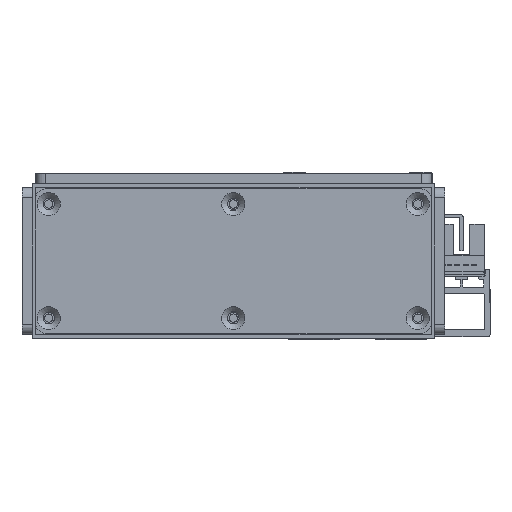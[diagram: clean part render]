
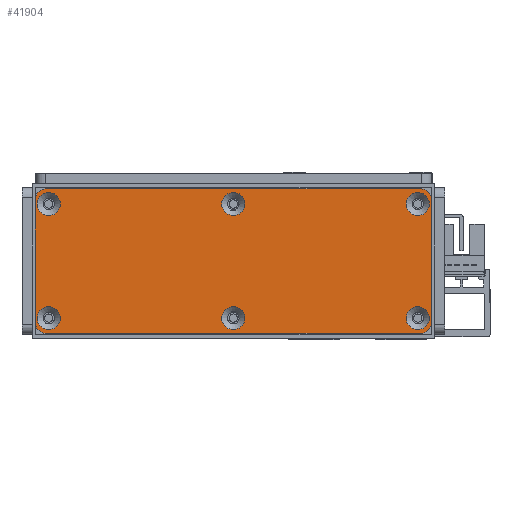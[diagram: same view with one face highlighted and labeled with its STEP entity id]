
A CAD part, front view. The second image highlights one B-rep face of the part: STEP entity #41904.
In plain terms, the highlighted planar face has unit normal (0, -1, 0) as drawn and (0, 0, 1) by its records, which use the part's own axes.
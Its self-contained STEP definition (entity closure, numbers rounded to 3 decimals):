
#779=FACE_BOUND('',#7645,.T.);
#780=FACE_BOUND('',#7646,.T.);
#781=FACE_BOUND('',#7647,.T.);
#782=FACE_BOUND('',#7648,.T.);
#783=FACE_BOUND('',#7649,.T.);
#784=FACE_BOUND('',#7650,.T.);
#2541=PLANE('',#45408);
#5114=FACE_OUTER_BOUND('',#7644,.T.);
#7644=EDGE_LOOP('',(#39059,#39060,#39061,#39062,#39063,#39064,#39065,#39066));
#7645=EDGE_LOOP('',(#39067));
#7646=EDGE_LOOP('',(#39068));
#7647=EDGE_LOOP('',(#39069));
#7648=EDGE_LOOP('',(#39070));
#7649=EDGE_LOOP('',(#39071));
#7650=EDGE_LOOP('',(#39072));
#12227=LINE('',#69977,#16887);
#12231=LINE('',#69989,#16891);
#12235=LINE('',#70001,#16895);
#12239=LINE('',#70011,#16899);
#16887=VECTOR('',#56042,10.);
#16891=VECTOR('',#56054,10.);
#16895=VECTOR('',#56066,10.);
#16899=VECTOR('',#56078,10.);
#18063=CIRCLE('',#45362,3.45);
#18066=CIRCLE('',#45367,3.45);
#18069=CIRCLE('',#45372,3.45);
#18072=CIRCLE('',#45377,3.45);
#18075=CIRCLE('',#45382,3.45);
#18078=CIRCLE('',#45387,3.45);
#18082=CIRCLE('',#45393,3.);
#18084=CIRCLE('',#45397,3.);
#18086=CIRCLE('',#45401,3.);
#18088=CIRCLE('',#45405,3.);
#21839=VERTEX_POINT('',#69905);
#21842=VERTEX_POINT('',#69915);
#21845=VERTEX_POINT('',#69925);
#21848=VERTEX_POINT('',#69935);
#21851=VERTEX_POINT('',#69945);
#21854=VERTEX_POINT('',#69955);
#21859=VERTEX_POINT('',#69968);
#21860=VERTEX_POINT('',#69970);
#21862=VERTEX_POINT('',#69976);
#21864=VERTEX_POINT('',#69982);
#21866=VERTEX_POINT('',#69988);
#21868=VERTEX_POINT('',#69994);
#21870=VERTEX_POINT('',#70000);
#21872=VERTEX_POINT('',#70006);
#27588=EDGE_CURVE('',#21839,#21839,#18063,.T.);
#27593=EDGE_CURVE('',#21842,#21842,#18066,.T.);
#27598=EDGE_CURVE('',#21845,#21845,#18069,.T.);
#27603=EDGE_CURVE('',#21848,#21848,#18072,.T.);
#27608=EDGE_CURVE('',#21851,#21851,#18075,.T.);
#27613=EDGE_CURVE('',#21854,#21854,#18078,.T.);
#27620=EDGE_CURVE('',#21860,#21859,#18082,.T.);
#27623=EDGE_CURVE('',#21862,#21860,#12227,.T.);
#27626=EDGE_CURVE('',#21864,#21862,#18084,.T.);
#27629=EDGE_CURVE('',#21866,#21864,#12231,.T.);
#27632=EDGE_CURVE('',#21868,#21866,#18086,.T.);
#27635=EDGE_CURVE('',#21870,#21868,#12235,.T.);
#27638=EDGE_CURVE('',#21872,#21870,#18088,.T.);
#27641=EDGE_CURVE('',#21859,#21872,#12239,.T.);
#39059=ORIENTED_EDGE('',*,*,#27641,.T.);
#39060=ORIENTED_EDGE('',*,*,#27638,.T.);
#39061=ORIENTED_EDGE('',*,*,#27635,.T.);
#39062=ORIENTED_EDGE('',*,*,#27632,.T.);
#39063=ORIENTED_EDGE('',*,*,#27629,.T.);
#39064=ORIENTED_EDGE('',*,*,#27626,.T.);
#39065=ORIENTED_EDGE('',*,*,#27623,.T.);
#39066=ORIENTED_EDGE('',*,*,#27620,.T.);
#39067=ORIENTED_EDGE('',*,*,#27588,.T.);
#39068=ORIENTED_EDGE('',*,*,#27593,.T.);
#39069=ORIENTED_EDGE('',*,*,#27598,.T.);
#39070=ORIENTED_EDGE('',*,*,#27603,.T.);
#39071=ORIENTED_EDGE('',*,*,#27608,.T.);
#39072=ORIENTED_EDGE('',*,*,#27613,.T.);
#41904=ADVANCED_FACE('',(#5114,#779,#780,#781,#782,#783,#784),#2541,.T.);
#45362=AXIS2_PLACEMENT_3D('',#69906,#55961,#55962);
#45367=AXIS2_PLACEMENT_3D('',#69916,#55973,#55974);
#45372=AXIS2_PLACEMENT_3D('',#69926,#55985,#55986);
#45377=AXIS2_PLACEMENT_3D('',#69936,#55997,#55998);
#45382=AXIS2_PLACEMENT_3D('',#69946,#56009,#56010);
#45387=AXIS2_PLACEMENT_3D('',#69956,#56021,#56022);
#45393=AXIS2_PLACEMENT_3D('',#69971,#56036,#56037);
#45397=AXIS2_PLACEMENT_3D('',#69983,#56048,#56049);
#45401=AXIS2_PLACEMENT_3D('',#69995,#56060,#56061);
#45405=AXIS2_PLACEMENT_3D('',#70007,#56072,#56073);
#45408=AXIS2_PLACEMENT_3D('',#70013,#56081,#56082);
#55961=DIRECTION('center_axis',(0.,0.,-1.));
#55962=DIRECTION('ref_axis',(1.,0.,0.));
#55973=DIRECTION('center_axis',(0.,0.,-1.));
#55974=DIRECTION('ref_axis',(1.,0.,0.));
#55985=DIRECTION('center_axis',(0.,0.,-1.));
#55986=DIRECTION('ref_axis',(1.,0.,0.));
#55997=DIRECTION('center_axis',(0.,0.,-1.));
#55998=DIRECTION('ref_axis',(1.,0.,0.));
#56009=DIRECTION('center_axis',(0.,0.,-1.));
#56010=DIRECTION('ref_axis',(1.,0.,0.));
#56021=DIRECTION('center_axis',(0.,0.,-1.));
#56022=DIRECTION('ref_axis',(1.,0.,0.));
#56036=DIRECTION('center_axis',(0.,0.,1.));
#56037=DIRECTION('ref_axis',(-1.,0.,0.));
#56042=DIRECTION('',(0.,1.,0.));
#56048=DIRECTION('center_axis',(0.,0.,1.));
#56049=DIRECTION('ref_axis',(0.,1.,0.));
#56054=DIRECTION('',(1.,0.,0.));
#56060=DIRECTION('center_axis',(0.,0.,1.));
#56061=DIRECTION('ref_axis',(1.,0.,0.));
#56066=DIRECTION('',(0.,-1.,0.));
#56072=DIRECTION('center_axis',(0.,0.,1.));
#56073=DIRECTION('ref_axis',(0.,-1.,0.));
#56078=DIRECTION('',(-1.,0.,0.));
#56081=DIRECTION('center_axis',(0.,0.,1.));
#56082=DIRECTION('ref_axis',(1.,0.,0.));
#69905=CARTESIAN_POINT('',(110.55,4.5,3.));
#69906=CARTESIAN_POINT('Origin',(114.,4.5,3.));
#69915=CARTESIAN_POINT('',(55.55,38.5,3.));
#69916=CARTESIAN_POINT('Origin',(59.,38.5,3.));
#69925=CARTESIAN_POINT('',(55.55,4.5,3.));
#69926=CARTESIAN_POINT('Origin',(59.,4.5,3.));
#69935=CARTESIAN_POINT('',(0.55,38.5,3.));
#69936=CARTESIAN_POINT('Origin',(4.,38.5,3.));
#69945=CARTESIAN_POINT('',(110.55,38.5,3.));
#69946=CARTESIAN_POINT('Origin',(114.,38.5,3.));
#69955=CARTESIAN_POINT('',(0.55,4.5,3.));
#69956=CARTESIAN_POINT('Origin',(4.,4.5,3.));
#69968=CARTESIAN_POINT('',(115.,43.,3.));
#69970=CARTESIAN_POINT('',(118.,40.,3.));
#69971=CARTESIAN_POINT('Origin',(115.,40.,3.));
#69976=CARTESIAN_POINT('',(118.,3.,3.));
#69977=CARTESIAN_POINT('',(118.,40.,3.));
#69982=CARTESIAN_POINT('',(115.,0.,3.));
#69983=CARTESIAN_POINT('Origin',(115.,3.,3.));
#69988=CARTESIAN_POINT('',(3.,0.,3.));
#69989=CARTESIAN_POINT('',(115.,0.,3.));
#69994=CARTESIAN_POINT('',(0.,3.,3.));
#69995=CARTESIAN_POINT('Origin',(3.,3.,3.));
#70000=CARTESIAN_POINT('',(0.,40.,3.));
#70001=CARTESIAN_POINT('',(0.,3.,3.));
#70006=CARTESIAN_POINT('',(3.,43.,3.));
#70007=CARTESIAN_POINT('Origin',(3.,40.,3.));
#70011=CARTESIAN_POINT('',(3.,43.,3.));
#70013=CARTESIAN_POINT('Origin',(59.,21.5,3.));
